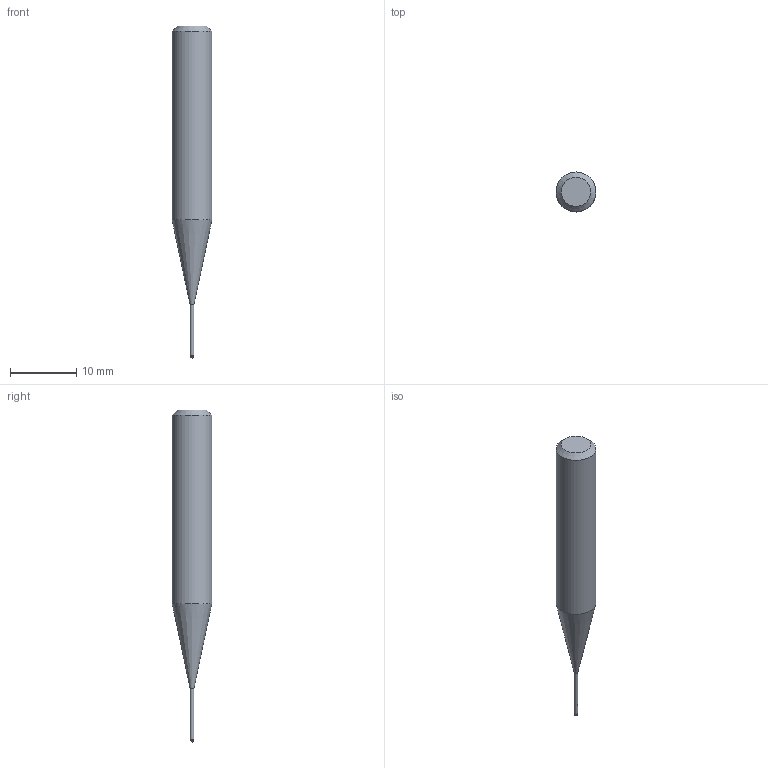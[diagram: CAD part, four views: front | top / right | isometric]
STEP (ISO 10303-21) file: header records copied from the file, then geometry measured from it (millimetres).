
FILE_DESCRIPTION((''),'2;1');
FILE_NAME('C:\Users\nsx150\AppData\Local\Temp\Mastercam 2021\3SYKECWX22\TEMP.step','2021-04-22T10:01:08',(''),(''),'STEP Write','Mastercam 2021 ... CNC Software, Inc.','');
FILE_SCHEMA(('AUTOMOTIVE_DESIGN'));
Length unit declared in the file: millimetre
Products named in the file (1): None
Bounding box: 6 x 6 x 50 mm (x, y, z)
Volume: 955.1 mm3; surface area: 718.5 mm2
Topology: 2 solids, 2 shells, 9 faces, 14 edges, 8 vertices
Faces by surface type: plane 3, cylinder 3, cone 2, sphere 1
Full cylindrical faces by diameter (mm): 0.56 x1, 0.6 x1, 6 x1
Entity records: 211 total; most frequent: DIRECTION 36, CARTESIAN_POINT 25, AXIS2_PLACEMENT_3D 18, ORIENTED_EDGE 14, EDGE_LOOP 14, STYLED_ITEM 12, ADVANCED_FACE 9, FACE_BOUND 8
